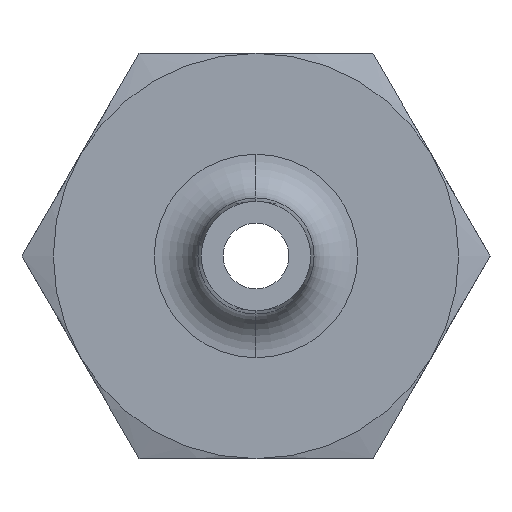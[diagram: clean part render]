
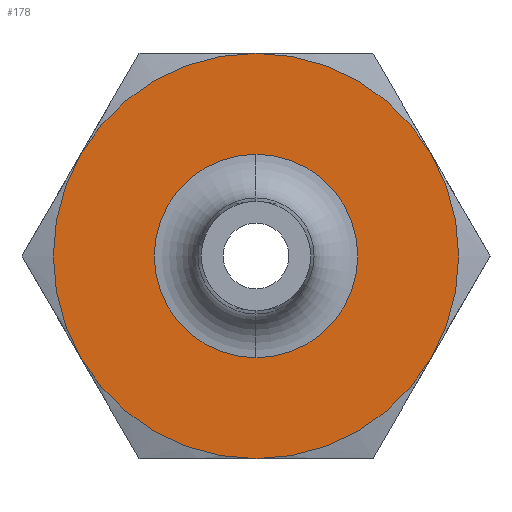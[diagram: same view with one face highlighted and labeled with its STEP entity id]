
A CAD part, left-side view. The second image highlights one B-rep face of the part: STEP entity #178.
In plain terms, the highlighted planar face has unit normal (-1, 0, 0).
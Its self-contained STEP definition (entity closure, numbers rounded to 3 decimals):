
#90 = EDGE_CURVE ( 'NONE', #91, #92, #833, .T. ) ;
#91 = VERTEX_POINT ( 'NONE', #823 ) ;
#92 = VERTEX_POINT ( 'NONE', #822 ) ;
#164 = VERTEX_POINT ( 'NONE', #1032 ) ;
#165 = ORIENTED_EDGE ( 'NONE', *, *, #166, .F. ) ;
#166 = EDGE_CURVE ( 'NONE', #369, #352, #1120, .T. ) ;
#167 = ORIENTED_EDGE ( 'NONE', *, *, #168, .T. ) ;
#168 = EDGE_CURVE ( 'NONE', #369, #164, #1114, .T. ) ;
#169 = ORIENTED_EDGE ( 'NONE', *, *, #170, .F. ) ;
#170 = EDGE_CURVE ( 'NONE', #236, #164, #1115, .T. ) ;
#178 = ADVANCED_FACE ( 'NONE', ( #1090, #1085 ), #1083, .F. ) ;
#179 = EDGE_LOOP ( 'NONE', ( #180, #190 ) ) ;
#180 = ORIENTED_EDGE ( 'NONE', *, *, #181, .T. ) ;
#181 = EDGE_CURVE ( 'NONE', #92, #91, #1079, .T. ) ;
#190 = ORIENTED_EDGE ( 'NONE', *, *, #90, .T. ) ;
#191 = EDGE_LOOP ( 'NONE', ( #192, #194, #196, #165, #167, #169 ) ) ;
#192 = ORIENTED_EDGE ( 'NONE', *, *, #193, .F. ) ;
#193 = EDGE_CURVE ( 'NONE', #305, #236, #1058, .T. ) ;
#194 = ORIENTED_EDGE ( 'NONE', *, *, #195, .F. ) ;
#195 = EDGE_CURVE ( 'NONE', #264, #305, #1053, .T. ) ;
#196 = ORIENTED_EDGE ( 'NONE', *, *, #197, .F. ) ;
#197 = EDGE_CURVE ( 'NONE', #352, #264, #1047, .T. ) ;
#236 = VERTEX_POINT ( 'NONE', #1008 ) ;
#264 = VERTEX_POINT ( 'NONE', #1193 ) ;
#305 = VERTEX_POINT ( 'NONE', #1280 ) ;
#352 = VERTEX_POINT ( 'NONE', #1374 ) ;
#369 = VERTEX_POINT ( 'NONE', #1412 ) ;
#822 = CARTESIAN_POINT ( 'NONE',  ( 0., 0., -2.79 ) ) ;
#823 = CARTESIAN_POINT ( 'NONE',  ( 0., 0., 2.79 ) ) ;
#824 = DIRECTION ( 'NONE',  ( 0., 0., -1. ) ) ;
#825 = DIRECTION ( 'NONE',  ( 1., 0., 0. ) ) ;
#826 = CARTESIAN_POINT ( 'NONE',  ( 0., 0., 0. ) ) ;
#827 = AXIS2_PLACEMENT_3D ( 'NONE', #826, #825, #824 ) ;
#833 = CIRCLE ( 'NONE', #827, 2.79 ) ;
#1008 = CARTESIAN_POINT ( 'NONE',  ( 0., 4.811, -2.777 ) ) ;
#1032 = CARTESIAN_POINT ( 'NONE',  ( 0., 4.811, 2.777 ) ) ;
#1043 = DIRECTION ( 'NONE',  ( 0., 0., -1. ) ) ;
#1044 = DIRECTION ( 'NONE',  ( 1., 0., 0. ) ) ;
#1045 = CARTESIAN_POINT ( 'NONE',  ( 0., 0., 0. ) ) ;
#1046 = AXIS2_PLACEMENT_3D ( 'NONE', #1045, #1044, #1043 ) ;
#1047 = CIRCLE ( 'NONE', #1046, 5.555 ) ;
#1048 = DIRECTION ( 'NONE',  ( 0., 0., -1. ) ) ;
#1049 = DIRECTION ( 'NONE',  ( 1., 0., 0. ) ) ;
#1050 = CARTESIAN_POINT ( 'NONE',  ( 0., 0., 0. ) ) ;
#1052 = AXIS2_PLACEMENT_3D ( 'NONE', #1050, #1049, #1048 ) ;
#1053 = CIRCLE ( 'NONE', #1052, 5.555 ) ;
#1054 = DIRECTION ( 'NONE',  ( 0., 0., -1. ) ) ;
#1055 = DIRECTION ( 'NONE',  ( 1., 0., 0. ) ) ;
#1056 = CARTESIAN_POINT ( 'NONE',  ( 0., 0., 0. ) ) ;
#1057 = AXIS2_PLACEMENT_3D ( 'NONE', #1056, #1055, #1054 ) ;
#1058 = CIRCLE ( 'NONE', #1057, 5.555 ) ;
#1075 = DIRECTION ( 'NONE',  ( 0., 0., -1. ) ) ;
#1076 = DIRECTION ( 'NONE',  ( 1., 0., 0. ) ) ;
#1077 = CARTESIAN_POINT ( 'NONE',  ( 0., 0., 0. ) ) ;
#1078 = AXIS2_PLACEMENT_3D ( 'NONE', #1077, #1076, #1075 ) ;
#1079 = CIRCLE ( 'NONE', #1078, 2.79 ) ;
#1080 = DIRECTION ( 'NONE',  ( 0., 0., -1. ) ) ;
#1081 = DIRECTION ( 'NONE',  ( 1., 0., 0. ) ) ;
#1082 = CARTESIAN_POINT ( 'NONE',  ( 0., 6.414, 0. ) ) ;
#1083 = PLANE ( 'NONE',  #1084 ) ;
#1084 = AXIS2_PLACEMENT_3D ( 'NONE', #1082, #1081, #1080 ) ;
#1085 = FACE_OUTER_BOUND ( 'NONE', #191, .T. ) ;
#1090 = FACE_BOUND ( 'NONE', #179, .T. ) ;
#1106 = DIRECTION ( 'NONE',  ( 0., 0., -1. ) ) ;
#1107 = DIRECTION ( 'NONE',  ( 1., 0., 0. ) ) ;
#1108 = CARTESIAN_POINT ( 'NONE',  ( 0., 0., 0. ) ) ;
#1109 = AXIS2_PLACEMENT_3D ( 'NONE', #1108, #1107, #1106 ) ;
#1110 = DIRECTION ( 'NONE',  ( 0., 0., 1. ) ) ;
#1111 = DIRECTION ( 'NONE',  ( -1., 0., 0. ) ) ;
#1112 = CARTESIAN_POINT ( 'NONE',  ( 0., 0., 0. ) ) ;
#1113 = AXIS2_PLACEMENT_3D ( 'NONE', #1112, #1111, #1110 ) ;
#1114 = CIRCLE ( 'NONE', #1113, 5.555 ) ;
#1115 = CIRCLE ( 'NONE', #1109, 5.555 ) ;
#1116 = DIRECTION ( 'NONE',  ( 0., 0., -1. ) ) ;
#1117 = DIRECTION ( 'NONE',  ( 1., 0., 0. ) ) ;
#1118 = CARTESIAN_POINT ( 'NONE',  ( 0., 0., 0. ) ) ;
#1119 = AXIS2_PLACEMENT_3D ( 'NONE', #1118, #1117, #1116 ) ;
#1120 = CIRCLE ( 'NONE', #1119, 5.555 ) ;
#1193 = CARTESIAN_POINT ( 'NONE',  ( 0., -4.811, -2.777 ) ) ;
#1280 = CARTESIAN_POINT ( 'NONE',  ( 0., 0., -5.555 ) ) ;
#1374 = CARTESIAN_POINT ( 'NONE',  ( 0., -4.811, 2.777 ) ) ;
#1412 = CARTESIAN_POINT ( 'NONE',  ( 0., 0., 5.555 ) ) ;
